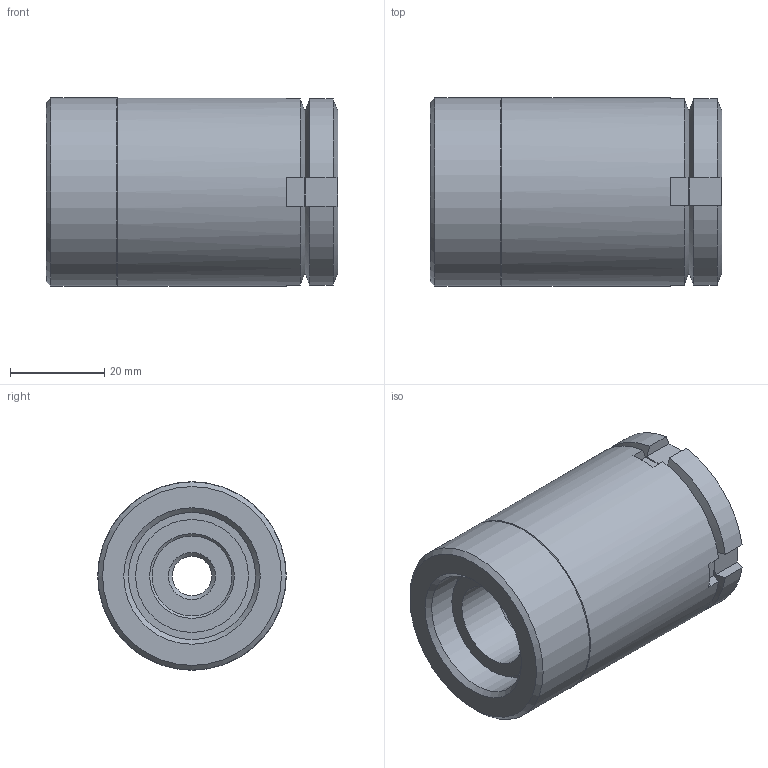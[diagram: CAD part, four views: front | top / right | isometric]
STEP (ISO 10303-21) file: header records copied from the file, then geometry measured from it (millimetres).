
FILE_DESCRIPTION( ( 'STEP AP203' ), '1' );
FILE_NAME( 'C:/Temp/Ganter_Step_05_03_2020/data/3_2/gn360/gn360_ni/Stainless Steel-Levelling set GN 360-40-M10-86-A-NI (0-0).stp', '2020-03-13T05:42:01', ( 'License CC BY-ND 4.0' ), ( 'CADENAS' ), ' ', 'PARTsolutions', ' ' );
FILE_SCHEMA( ( 'CONFIG_CONTROL_DESIGN' ) );
Length unit declared in the file: millimetre
Products named in the file (4): Stainless Steel-Levelling set GN 360-40-M10-86-A-NI (0-0); _Stainless Steel-Levelling set GN 360-40-M10-86-A-NI (0-0)-1; _Stainless Steel-Levelling set GN 360-40-M10-86-A-NI (0-0)-2; _Stainless Steel-Levelling set GN 360-40-M10-86-A-NI (0-0)-3
Assembly tree (3 placements, depth 2):
  Stainless Steel-Levelling set GN 360-40-M10-86-A-NI (0-0)
    _Stainless Steel-Levelling set GN 360-40-M10-86-A-NI (0-0)-1
    _Stainless Steel-Levelling set GN 360-40-M10-86-A-NI (0-0)-2
    _Stainless Steel-Levelling set GN 360-40-M10-86-A-NI (0-0)-3
Bounding box: 62 x 40 x 40 mm (x, y, z)
Volume: 61939.4 mm3; surface area: 24652.3 mm2
Topology: 3 solids, 3 shells, 72 faces, 167 edges, 107 vertices
Faces by surface type: plane 40, cylinder 17, cone 12, sphere 2, torus 1
Full cylindrical faces by diameter (mm): 8.376 x1, 17 x1, 18 x1, 20 x1, 23.5 x1, 24 x1, 26 x1, 26.376 x1, 27 x1, 28 x1, 28.5 x1, 40 x2
Entity records: 2101 total; most frequent: CARTESIAN_POINT 480, DIRECTION 304, ORIENTED_EDGE 268, EDGE_CURVE 134, AXIS2_PLACEMENT_3D 130, EDGE_LOOP 112, VERTEX_POINT 102, FACE_OUTER_BOUND 88
